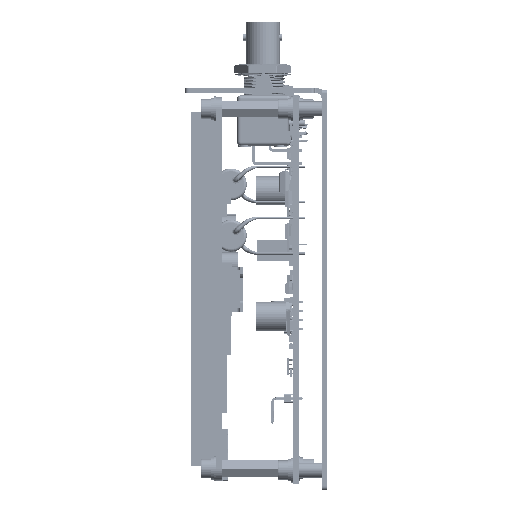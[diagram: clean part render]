
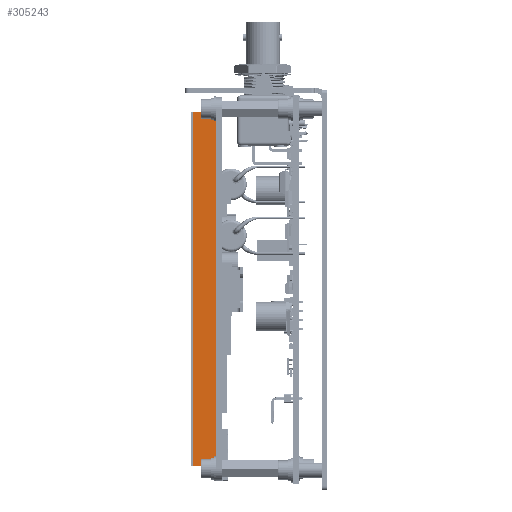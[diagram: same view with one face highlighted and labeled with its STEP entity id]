
A CAD part, left-side view. The second image highlights one B-rep face of the part: STEP entity #305243.
In plain terms, the highlighted planar face has unit normal (-1, 0, 0) as drawn and (1, 0, 0) by its records, which use the part's own axes.
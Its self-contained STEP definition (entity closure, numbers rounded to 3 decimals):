
#31575 = ORIENTED_EDGE ( 'NONE', *, *, #337504, .T. ) ;
#34018 = LINE ( 'NONE', #360036, #307759 ) ;
#46878 = EDGE_LOOP ( 'NONE', ( #182873, #345270, #130741, #31575 ) ) ;
#48822 = VERTEX_POINT ( 'NONE', #123234 ) ;
#59185 = AXIS2_PLACEMENT_3D ( 'NONE', #311032, #113780, #278824 ) ;
#61557 = VECTOR ( 'NONE', #334369, 1000. ) ;
#86490 = CARTESIAN_POINT ( 'NONE',  ( 182.5, 4.85, 20.5 ) ) ;
#100607 = DIRECTION ( 'NONE',  ( 0., -1., 0. ) ) ;
#111302 = LINE ( 'NONE', #173456, #61557 ) ;
#113780 = DIRECTION ( 'NONE',  ( 1., 0., 0. ) ) ;
#123234 = CARTESIAN_POINT ( 'NONE',  ( 182.5, 4.85, 20.5 ) ) ;
#128009 = PLANE ( 'NONE',  #59185 ) ;
#130741 = ORIENTED_EDGE ( 'NONE', *, *, #167729, .T. ) ;
#142503 = DIRECTION ( 'NONE',  ( 0., 0., 1. ) ) ;
#159206 = DIRECTION ( 'NONE',  ( 0., 1., 0. ) ) ;
#167729 = EDGE_CURVE ( 'NONE', #48822, #367242, #315985, .T. ) ;
#173456 = CARTESIAN_POINT ( 'NONE',  ( 182.5, 4.85, 20.5 ) ) ;
#174738 = CARTESIAN_POINT ( 'NONE',  ( 182.5, 104.85, 20.5 ) ) ;
#179197 = CARTESIAN_POINT ( 'NONE',  ( 182.5, 104.85, 20.5 ) ) ;
#182873 = ORIENTED_EDGE ( 'NONE', *, *, #194701, .T. ) ;
#188906 = CARTESIAN_POINT ( 'NONE',  ( 182.5, 104.85, 27. ) ) ;
#194701 = EDGE_CURVE ( 'NONE', #276003, #298395, #34018, .T. ) ;
#196672 = CARTESIAN_POINT ( 'NONE',  ( 182.5, 4.85, 27. ) ) ;
#213519 = VECTOR ( 'NONE', #159206, 1000. ) ;
#246636 = FACE_OUTER_BOUND ( 'NONE', #46878, .T. ) ;
#276003 = VERTEX_POINT ( 'NONE', #188906 ) ;
#278824 = DIRECTION ( 'NONE',  ( 0., 1., 0. ) ) ;
#298395 = VERTEX_POINT ( 'NONE', #196672 ) ;
#305243 = ADVANCED_FACE ( 'NONE', ( #246636 ), #128009, .T. ) ;
#307759 = VECTOR ( 'NONE', #100607, 1000. ) ;
#311032 = CARTESIAN_POINT ( 'NONE',  ( 182.5, 4.85, 20.5 ) ) ;
#315985 = LINE ( 'NONE', #86490, #213519 ) ;
#334369 = DIRECTION ( 'NONE',  ( 0., 0., 1. ) ) ;
#337504 = EDGE_CURVE ( 'NONE', #367242, #276003, #337781, .T. ) ;
#337781 = LINE ( 'NONE', #174738, #378084 ) ;
#345270 = ORIENTED_EDGE ( 'NONE', *, *, #383650, .F. ) ;
#360036 = CARTESIAN_POINT ( 'NONE',  ( 182.5, 29.85, 27. ) ) ;
#367242 = VERTEX_POINT ( 'NONE', #179197 ) ;
#378084 = VECTOR ( 'NONE', #142503, 1000. ) ;
#383650 = EDGE_CURVE ( 'NONE', #48822, #298395, #111302, .T. ) ;
